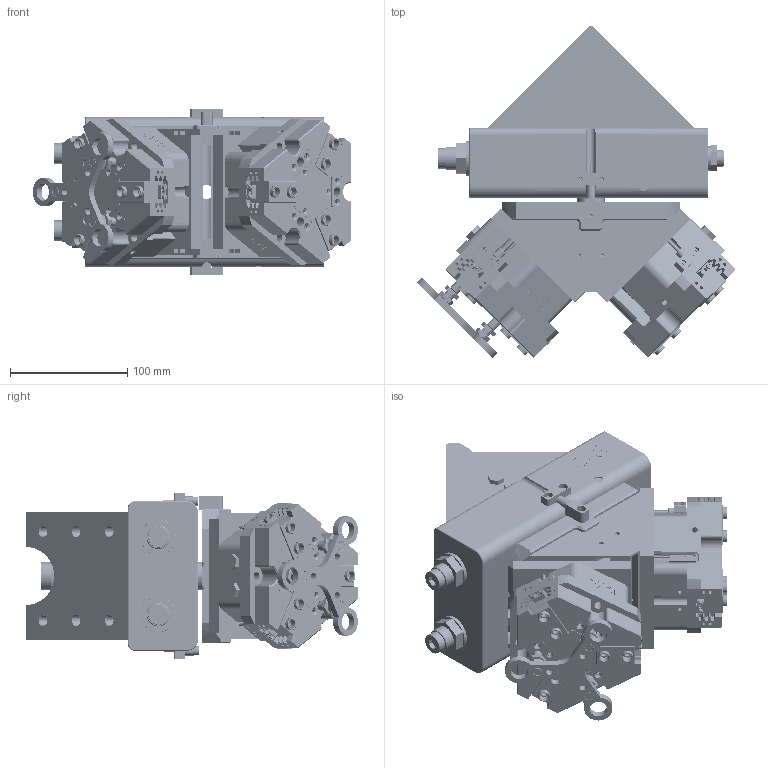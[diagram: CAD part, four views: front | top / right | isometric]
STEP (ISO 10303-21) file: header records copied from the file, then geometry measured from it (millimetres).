
FILE_DESCRIPTION (( 'STEP AP203' ), '1' );
FILE_NAME ('TG40-FZ70-125-180¡ã.STEP', '2025-07-24T05:26:57', ( 'USER-' ), ( 'Microsoft' ), 'SwSTEP 2.0', 'SolidWorks 2018', '' );
FILE_SCHEMA (( 'CONFIG_CONTROL_DESIGN' ));
Length unit declared in the file: millimetre
Products named in the file (54): 25x10-R1.5; TG40-FZ70-125-180°; TG40.sldasm-Part-26; TZT70-125-M-10 囀笢猾啣; TG40-M-05遣喳傷裔; 揤輸蚾饜极-2; 揤輸蚾饜极-3; 揤輸蚾饜极-1; TG40.sldasm-Part-41; TG40.sldasm-Part-6; M8情蹟譫; TZT70-125-M-02 賑輸; TG40.sldasm-Part-28; TG40-M-12 茞癹弇傷裔; 38x18-R5; TG40.sldasm-Part-9; TG40.sldasm-Part-22; TG40.sldasm-Part-7; TG40.sldasm-Part-8; ﾏ擎ﾗ10｡ﾁ8｡ﾁ6; TG40-M-02-C 眻褒輸; TG40.sldasm-Part-27; 揤輸蚾饜极-5; 棠羲換覜ん; TG40.sldasm-Part-14; 内六角圆柱头螺钉[GBT70_1-2008][M2.5×8]; TG40.sldasm-Part-25; TG40.sldasm-Part-20; 蟀諉啣10; 电容传感器8x23接近开关; TG40.sldasm-Part-35; FZ70-125-C30; TG40.sldasm-Part-13; TZT70-125-M-01褲极; TG40.sldasm-Part-12; TG40.sldasm-Part-29; TG40.sldasm-Part-34; 苤覜聆假蚾璃; M14-1.5-70蹟翐; TG40.sldasm-Part-11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
Assembly tree (117 placements, depth 4):
  TG40-FZ70-125-180°
    TG40
      TG40.sldasm-Part-6
      TG40.sldasm-Part-7
      TG40.sldasm-Part-8
      TG40.sldasm-Part-9
      TG40.sldasm-Part-11
      TG40.sldasm-Part-12
      TG40.sldasm-Part-13
      TG40.sldasm-Part-14
      TG40.sldasm-Part-19
      TG40.sldasm-Part-20
      TG40.sldasm-Part-21
      TG40.sldasm-Part-22
      TG40.sldasm-Part-25
      TG40.sldasm-Part-26
      TG40.sldasm-Part-27
      TG40.sldasm-Part-28
      TG40.sldasm-Part-29
      TG40.sldasm-Part-34
      TG40.sldasm-Part-35
      TG40.sldasm-Part-37
      TG40.sldasm-Part-41
      TG40-M-12 茞癹弇傷裔
      M14杶蚾  x2
      M14-1.5-70蹟翐  x2
      TG40-M-05遣喳傷裔
      38x18-R5
      TG40-M-02-C 眻褒輸
    蟀諉啣10  x2
    TG40.sldasm-Part-29  x4
    FZ70-125-C30
      揤輸蚾饜极-3
        内六角圆柱头螺钉[GBT70_1-2008][M2.5×8]  x2
        苤覜聆假蚾璃
      揤輸蚾饜极-4
        内六角圆柱头螺钉[GBT70_1-2008][M2.5×8]  x2
        苤覜聆假蚾璃
      揤輸蚾饜极-5
        内六角圆柱头螺钉[GBT70_1-2008][M2.5×8]  x2
        苤覜聆假蚾璃
      -C30
        TZT70-125-M-07 芢裝  x3
        TZT70-125-M-08 芢蹋
        M8情蹟譫  x6
      TZT70-125-M-01褲极
      TZT70-125-M-02 賑輸  x3
      TZT70-125-M-05 菁裔啣
      TZT70-125-M-06 笢猾啣
      TZT70-125-M-10 囀笢猾啣  x3
      电容传感器8x23接近开关  x2
      20241226-M4 M4換覜ん揤輸  x2
      棠羲換覜ん  x2
      ﾏ擎ﾗ10｡ﾁ8｡ﾁ6  x6
      25x10-R1.5
    FZ70-125
      揤輸蚾饜极
        内六角圆柱头螺钉[GBT70_1-2008][M2.5×8]  x2
        苤覜聆假蚾璃
      揤輸蚾饜极-1
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Bounding box: 272.03 x 283.52 x 142 mm (x, y, z)
Volume: 4218837.7 mm3; surface area: 597156.3 mm2
Topology: 109 solids, 125 shells, 6106 faces, 15805 edges, 10126 vertices
Faces by surface type: plane 2909, cylinder 1445, bspline 913, cone 744, torus 95
Entity records: 110890 total; most frequent: CARTESIAN_POINT 33641, ORIENTED_EDGE 14972, DIRECTION 13506, EDGE_CURVE 7486, VERTEX_POINT 4857, VECTOR 4714, LINE 4714, AXIS2_PLACEMENT_3D 4396
